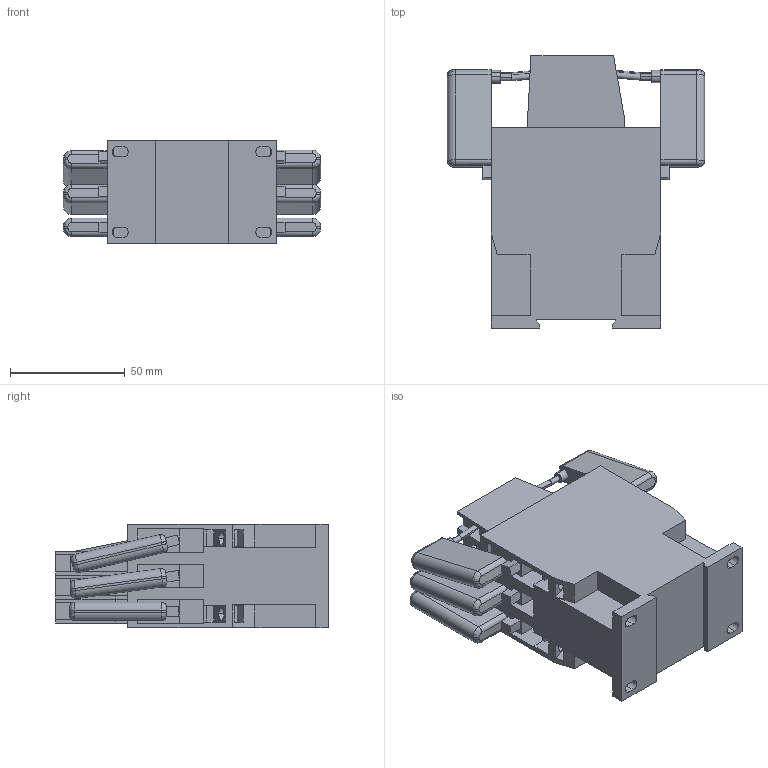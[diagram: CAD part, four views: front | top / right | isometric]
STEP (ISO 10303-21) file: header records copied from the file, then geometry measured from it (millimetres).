
FILE_DESCRIPTION (( 'STEP AP203' ), '1' );
FILE_NAME ('K3-24_32_40 K.STEP', '2014-04-23T11:29:31', ( '' ), ( '' ), 'SwSTEP 2.0', 'SolidWorks 2014', '' );
FILE_SCHEMA (( 'CONFIG_CONTROL_DESIGN' ));
Length unit declared in the file: millimetre
Products named in the file (4): Imported_10; Imported_7; Imported; K3-24_32_40 K
Assembly tree (10 placements, depth 2):
  K3-24_32_40 K
    Imported_10
    Imported_7  x3
    Imported  x6
Bounding box: 112 x 118.8 x 45 mm (x, y, z)
Volume: 308853.5 mm3; surface area: 70565.4 mm2
Topology: 10 solids, 10 shells, 518 faces, 1326 edges, 868 vertices
Faces by surface type: plane 320, cylinder 174, bspline 24
Entity records: 9061 total; most frequent: CARTESIAN_POINT 1910, ORIENTED_EDGE 1376, DIRECTION 1294, EDGE_CURVE 688, LINE 530, VECTOR 530, VERTEX_POINT 456, AXIS2_PLACEMENT_3D 382
